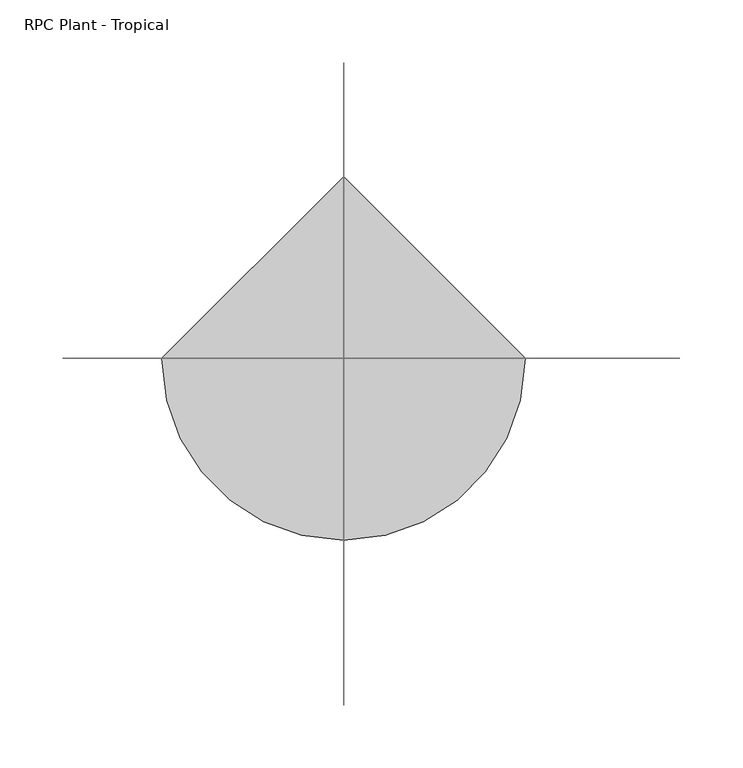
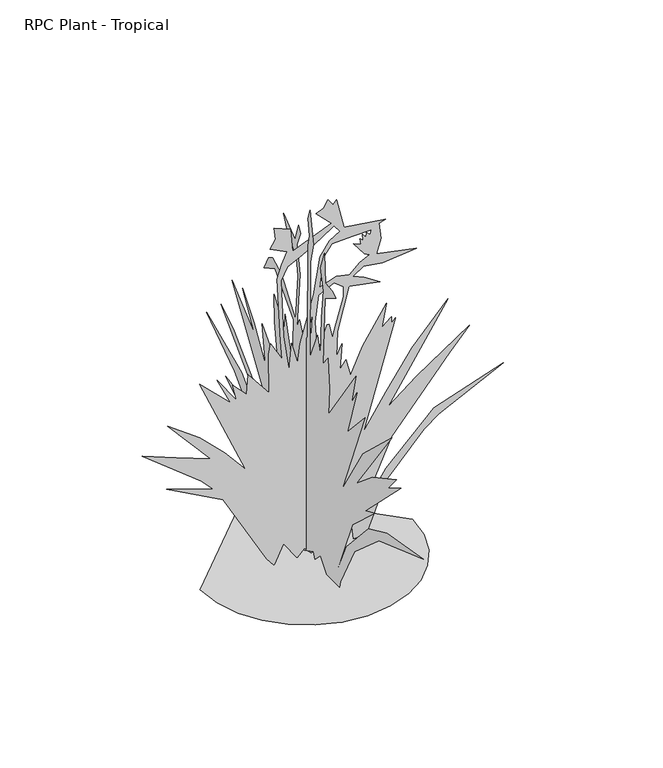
"""IFC4 building model written with IfcOpenShell, lengths in millimetres: geographic element geometry, RPC Plant - Tropical : Crane Lily - 0.9 Meters."""

from ifc_helpers import new_model, si_unit, origin, place, context, project, spatial, triangles, source, transform, mapped, element, save


def rpc_plant_tropical_9b0843ec(model_context):
    return source(origin(), model_context, "Body", "Tessellation", [
        triangles([(-144.3451138, 0.0, 0.0149018), (-140.5242714, -33.1194719, 0.0149018), (-129.6412057, -63.5343578, 0.0149018), (-112.5682834, -90.3732628, 0.0149018), (-90.1765906, -112.7649556, 0.0149018), (-63.3376855, -129.8378779, 0.0149018), (-32.9228019, -140.7209436, 0.0149018), (0.1966774, -144.541786, 0.0149018), (33.3161418, -140.7209436, 0.0149018), (63.73103, -129.8378779, 0.0149018), (90.569935, -112.7649556, 0.0149018), (112.9616278, -90.3732628, 0.0149018), (130.0345501, -63.5343578, 0.0149018), (140.9176158, -33.1194719, 0.0149018), (144.7384582, 1.26e-05, 0.0149018), (0.1966521, 144.541786, 0.0149018), (0.1966682, -77.3024218, 0.0), (0.1966696, -48.893232, 0.0297999), (0.1966539, -32.7725272, 18.1941815), (0.1966541, -19.8943207, 5.3843791), (0.1966545, -16.5890412, 14.2905669), (0.1966723, 12.1036205, 0.0193417), (0.1966561, 19.1870987, 12.2896761), (0.1966563, 27.5768278, 7.6457003), (0.1966579, 39.2622519, 44.1739252), (0.1966739, 50.0946212, 0.0115788), (0.1966582, 59.610324, 22.3329346), (0.1966579, 61.6993544, 8.7469929), (0.196661, 89.9189573, 73.5790844), (0.1966629, 110.0735592, 104.3375812), (0.1966664, 172.1876367, 129.0509346), (0.1966676, 190.416811, 141.0070544), (0.1966663, 164.8709684, 136.9864968), (0.1966646, 134.9149662, 126.8367711), (0.1966672, 168.995971, 161.3279071), (0.1966715, 235.2918517, 205.9571052), (0.1966667, 153.3640037, 169.1556996), (0.1966624, 95.4546568, 111.7235584), (0.1966657, 131.3244151, 168.0904122), (0.1966709, 201.0446144, 237.8404607), (0.196669, 170.9279207, 218.3196137), (0.1966649, 114.903288, 164.2265129), (0.1966621, 81.0282573, 120.7557924), (0.1966647, 102.345915, 176.7834681), (0.1966713, 175.0654225, 288.6196831), (0.1966676, 121.9250978, 243.7460232), (0.1966703, 150.2667908, 292.1627263), (0.1966681, 123.9774616, 258.5932637), (0.1966655, 95.9454972, 214.2237881), (0.1966675, 104.2116078, 268.5446548), (0.1966645, 65.2419979, 227.2126755), (0.1966668, 75.1603378, 289.5905178), (0.196668, 75.8700601, 328.7697215), (0.1966659, 51.9200413, 293.1960753), (0.1966665, 51.0711514, 314.5988568), (0.1966639, 32.5750261, 253.4168718), (0.1966657, 30.734191, 319.3016584), (0.1966691, 74.368394, 365.8919469), (0.1966698, 99.4879953, 352.387793), (0.1966699, 89.6349358, 372.2044613), (0.1966697, 80.4024234, 378.14476), (0.1966684, 59.1537976, 367.4030828), (0.1966656, 26.2723812, 322.8655397), (0.1966673, 20.1612671, 387.726697), (0.1966682, 23.9844644, 412.1336738), (0.19667, 45.7958693, 439.8753671), (0.1966709, 54.6139311, 457.4878821), (0.1966691, 26.867939, 437.3850758), (0.1966695, 19.1870987, 462.2114674), (0.196669, 14.4633455, 452.7642606), (0.1966687, 22.7296014, 432.6892505), (0.1966672, 14.6815394, 394.37531), (0.1966652, 22.7296014, 314.5988568), (0.1966654, 16.8251528, 327.5891613), (0.196664, 5.0161705, 301.6099694), (0.1966641, -2.3205158, 315.5988685), (0.196668, -3.4346, 446.0475921), (0.1966683, -7.420131, 463.3920276), (0.1966691, -3.7982252, 485.4323247), (0.1966694, -7.9737008, 500.0004035), (0.1966677, -16.5683462, 455.6170298), (0.1966672, -9.3729937, 426.9142396), (0.1966631, -7.9737008, 288.6196831), (0.1966636, -25.687104, 331.1322227), (0.1966625, -32.7725272, 306.333591), (0.1966641, -34.8757214, 362.0183461), (0.1966651, -40.2575309, 403.8253146), (0.1966663, -32.7725272, 432.6892505), (0.1966664, -37.496142, 445.6795186), (0.1966666, -42.2197567, 458.668406), (0.1966653, -44.5815629, 417.3378256), (0.1966645, -60.6572714, 416.5683958), (0.196664, -69.1589463, 410.9531136), (0.1966644, -54.8629621, 402.0614325), (0.1966646, -43.5850349, 394.8266996), (0.196662, -38.676977, 298.0669081), (0.1966619, -50.5193455, 312.9572056), (0.1966605, -54.0286562, 270.9057753), (0.1966595, -51.6668454, 233.1168573), (0.1966594, -116.6162013, 327.5891613), (0.1966585, -105.9881436, 282.7155014), (0.1966586, -118.9780121, 305.15165), (0.1966575, -96.5410458, 235.4793584), (0.196657, -137.872471, 280.3530002), (0.1966554, -83.5511774, 144.5501158), (0.1966556, -133.6439955, 225.8543464), (0.1966545, -201.950155, 290.3932849), (0.1966548, -117.7971793, 174.072369), (0.196654, -156.1001194, 205.659885), (0.1966524, -211.9362824, 236.1432532), (0.1966526, -192.1932106, 211.861287), (0.1966518, -222.5293495, 230.8140727), (0.196653, -138.9445531, 147.2792824), (0.1966523, -161.4904153, 157.5404021), (0.1966532, -108.0498092, 108.7139765), (0.1966521, -64.6567184, 4.0233921), (0.1966527, -94.7078547, 68.5974163), (0.1966521, -145.9028948, 125.5884371), (0.1966507, -190.2820991, 146.1626173), (0.1966473, -276.0377295, 161.0834634), (0.1966509, -170.6737392, 123.765238), (0.1966519, -113.3649553, 73.0311709), (0.1966516, -80.0083976, 9.9278824), (64.3538072, 1.26e-05, 0.0221524), (60.5307484, 1.14e-05, 40.687392), (42.8936527, 1.39e-05, 11.4909115), (30.6073887, 1.36e-05, 25.2796025), (7.0794961, 1.58e-05, 0.0066878), (-2.630734, 1.6e-05, 9.9240082), (-12.9838539, 1.69e-05, 0.0020465), (-30.7994668, 1.62e-05, 26.4604375), (-44.2103056, 1.79e-05, 0.0099334), (-53.9297614, 1.8e-05, 13.2020239), (-113.425226, 1.44e-05, 118.4596752), (-190.2201479, 1.52e-05, 161.0834634), (-127.6328708, 1.37e-05, 139.8265033), (-142.8492748, 1.34e-05, 155.9945662), (-223.2854625, 1.31e-05, 220.1279517), (-177.3395933, 1.22e-05, 201.2460011), (-129.9946815, 1.12e-05, 183.519594), (-189.0396059, 9.8e-06, 250.8307652), (-145.3798344, 9.8e-06, 218.8418384), (-111.255918, 1.03e-05, 185.7584835), (-82.7588111, 1.1e-05, 151.6362294), (-145.346497, 5.2e-06, 295.7044069), (-103.3622955, 5.8e-06, 254.8196568), (-121.7284256, 4.3e-06, 293.3432865), (-94.8022893, 5.4e-06, 255.4557554), (-100.4721558, 4.2e-06, 279.17244), (-81.5778422, 4.6e-06, 259.0974299), (-79.2160314, 2.9e-06, 286.2585627), (-50.8744792, 3.7e-06, 250.8307652), (-51.2569822, 5e-07, 305.9030213), (-48.5128092, -5e-07, 320.5044193), (-33.160996, 4e-07, 293.3432865), (-35.0303018, -1e-06, 319.1794275), (-39.919611, -6.2e-06, 409.7211757), (-33.5504412, -7.6e-06, 428.3197861), (-25.9997393, -8.9e-06, 444.8197964), (-49.6936464, -8.6e-06, 456.3073219), (-41.658917, -9.6e-06, 468.2823177), (-43.7891967, -1.05e-05, 484.6490149), (-21.6154298, -1.09e-05, 475.2003911), (-18.9904276, -9.1e-06, 443.3170175), (34.1500299, -1.27e-05, 464.5739685), (12.8939452, -1.31e-05, 485.8295388), (23.3902988, -1.38e-05, 490.2128832), (29.4265537, -1.46e-05, 500.0004035), (36.3922554, -1.44e-05, 490.4226088), (41.0758721, -1.49e-05, 495.8337247), (51.4207394, -1.28e-05, 452.8378753), (107.4731456, -1.48e-05, 445.0545204), (99.0993926, -1.42e-05, 442.1364573), (101.7564797, -1.3e-05, 419.3309089), (95.5567491, -1.15e-05, 399.6239359), (149.8787331, -1.32e-05, 387.8155724), (103.7527241, -1.09e-05, 383.2892135), (77.8802027, -1e-05, 387.2253104), (63.6724171, -8.9e-06, 378.3683656), (78.3093734, -9.1e-06, 371.3377991), (100.2803616, -9.2e-06, 357.1114145), (57.7851902, -7.9e-06, 365.8600084), (42.3276762, -3.7e-06, 306.4877604), (41.2354554, -1.5e-06, 270.9057753), (48.2728211, -2.7e-06, 286.7418908), (45.9589316, -5e-07, 250.8307652), (54.2253284, -1.5e-06, 261.4585503), (60.1297736, -3e-07, 236.6599186), (76.1721492, -3.2e-06, 273.277996), (109.0155115, -7.6e-06, 323.7141435), (102.6421723, -5.4e-06, 290.9821843), (115.6320408, -6.6e-06, 301.6099694), (115.6320408, -6e-06, 292.1627263), (121.5364951, -6.6e-06, 298.0669081), (77.8432591, 4.2e-06, 149.2737283), (108.1356506, 0.0, 196.255717), (143.6801198, -4.6e-06, 247.6057621), (192.3898737, -9.8e-06, 300.4280103), (110.9082921, 1.2e-06, 174.072369), (149.9620674, -2.2e-06, 203.8098889), (221.9135077, -8.3e-06, 252.0113072), (194.6745998, -5.3e-06, 221.8862928), (115.8610693, 3.7e-06, 128.7131555), (72.2017293, 1.14e-05, 32.5566928), (108.179952, 6.6e-06, 86.5777096), (173.5704193, -1e-07, 150.3806738), (267.9677097, -6.1e-06, 182.3390337), (180.7287578, 2e-07, 139.5681706), (159.7704077, 2.1e-06, 124.5494016), (109.1337002, 7.6e-06, 69.4886682), (81.3859026, 1.16e-05, 0.0277465), (62.7397796, -1.23e-05, 436.0503462), (35.0126703, -1.1e-05, 434.5670065), (23.3375222, -9.6e-06, 419.7086838), (17.6175179, -6.9e-06, 378.3683656), (41.0412903, -8.3e-06, 386.2225373), (58.9489409, -8.9e-06, 381.9100099), (72.8167309, -1.03e-05, 395.1808568), (86.1096604, -1.12e-05, 400.8044961), (78.8985362, -1.11e-05, 405.3350335), (64.4850583, -1.17e-05, 424.4808852), (74.5449275, -1.18e-05, 420.1142186), (73.3058952, -1.23e-05, 428.2809076), (77.1285407, -1.22e-05, 424.9225734), (76.6624264, -1.27e-05, 433.8697743), (81.3859026, -1.26e-05, 427.9656289), (81.5640985, -1.3e-05, 434.8003498), (86.8520206, -1.29e-05, 429.508667), (88.9222976, -1.34e-05, 436.1711964), (20.1533529, -1.11e-05, 447.835092), (-5.554625, -9.1e-06, 432.4017317), (-25.2864062, -7.6e-06, 423.0281033), (-34.1634965, -6.2e-06, 405.6836678), (-31.3234946, -1.5e-06, 325.2460994), (-23.713905, 1.2e-06, 273.2682764), (-20.1712638, -1.2e-06, 311.0571762), (-11.9049079, 3e-07, 280.3530002), (-8.4934609, -1.4e-06, 306.1377454), (10.089304, -6e-06, 370.2127951), (18.5769638, -9.5e-06, 422.2461742), (31.7308621, -1.12e-05, 440.393395), (45.9589316, -1.23e-05, 449.2211992), (37.6928119, -1.26e-05, 459.8503833), (16.7150181, -6.2e-06, 367.266972), (12.1178616, -3.8e-06, 330.8433231), (14.2395991, -1.4e-06, 288.7613351), (17.0686291, -1.5e-06, 289.1155104), (28.3846092, -3.9e-06, 320.5877718), (30.8600281, -4e-06, 320.2349954), (35.8107252, -3e-06, 299.7238564), (38.2861442, -3.7e-06, 310.6863776), (50.309352, -6.8e-06, 353.1211058), (50.309352, -7.7e-06, 367.9739056), (37.5787836, -7.7e-06, 377.5211426), (3.9845074, -3.1e-06, 325.5391411), (6.1062452, -2.5e-06, 313.5155291), (7.5207465, -3.3e-06, 326.9530446), (8.5816221, -4.3e-06, 342.8669352)], [[15, 16, 1], [14, 15, 1], [14, 1, 2], [13, 14, 2], [13, 2, 3], [13, 3, 4], [12, 13, 4], [11, 12, 4], [11, 4, 5], [11, 5, 6], [11, 6, 7], [11, 7, 8], [11, 8, 9], [11, 9, 10], [46, 47, 48], [119, 120, 121], [35, 36, 37], [106, 107, 108], [39, 40, 41], [39, 41, 42], [101, 102, 103], [111, 112, 113], [105, 106, 108], [44, 45, 46], [113, 114, 115], [54, 55, 56], [103, 104, 105], [99, 100, 101], [109, 110, 111], [89, 90, 91], [118, 119, 121], [31, 32, 33], [46, 48, 49], [44, 46, 49], [79, 80, 81], [78, 79, 81], [66, 67, 68], [27, 28, 29], [52, 53, 54], [88, 89, 91], [87, 88, 91], [49, 50, 51], [58, 59, 60], [99, 101, 103], [25, 26, 27], [83, 84, 85], [109, 111, 113], [108, 109, 113], [96, 97, 98], [68, 69, 70], [68, 70, 71], [38, 39, 42], [38, 42, 43], [65, 66, 68], [65, 68, 71], [65, 71, 72], [64, 65, 72], [64, 72, 73], [63, 64, 73], [118, 121, 122], [117, 118, 122], [117, 122, 123], [116, 117, 123], [73, 74, 75], [116, 123, 17], [116, 17, 18], [58, 60, 61], [58, 61, 62], [57, 58, 62], [57, 62, 63], [77, 78, 81], [77, 81, 82], [76, 77, 82], [76, 82, 83], [75, 76, 83], [92, 93, 94], [19, 20, 21], [30, 31, 33], [30, 33, 34], [91, 92, 94], [87, 91, 94], [87, 94, 95], [86, 87, 95], [86, 95, 96], [85, 86, 96], [34, 35, 37], [34, 37, 38], [30, 34, 38], [25, 27, 29], [57, 63, 73], [56, 57, 73], [56, 73, 75], [56, 75, 83], [23, 24, 25], [99, 103, 105], [29, 30, 38], [105, 108, 113], [105, 113, 115], [51, 52, 54], [51, 54, 56], [83, 85, 96], [21, 22, 23], [83, 96, 98], [83, 98, 99], [56, 83, 99], [29, 38, 43], [25, 29, 43], [115, 116, 18], [115, 18, 19], [105, 115, 19], [21, 23, 25], [44, 49, 51], [43, 44, 51], [56, 99, 105], [51, 56, 105], [43, 51, 105], [43, 105, 19], [25, 43, 19], [21, 25, 19], [248, 124, 125], [241, 229, 212], [206, 207, 208], [197, 198, 199], [146, 147, 148], [134, 135, 136], [196, 197, 199], [241, 212, 213], [255, 237, 238], [140, 141, 142], [200, 201, 202], [137, 138, 139], [255, 238, 239], [258, 255, 239], [175, 176, 177], [184, 185, 186], [235, 236, 237], [180, 181, 182], [189, 190, 191], [144, 145, 146], [140, 142, 143], [247, 248, 125], [171, 172, 173], [200, 202, 203], [199, 200, 203], [193, 194, 195], [237, 255, 256], [220, 221, 222], [148, 149, 150], [137, 139, 140], [224, 225, 226], [229, 241, 242], [195, 196, 199], [222, 223, 224], [153, 154, 155], [179, 180, 182], [150, 151, 152], [226, 227, 228], [191, 192, 193], [186, 187, 188], [169, 170, 171], [175, 177, 178], [152, 153, 155], [195, 199, 203], [161, 162, 163], [240, 241, 213], [240, 213, 214], [165, 166, 167], [167, 168, 169], [165, 167, 169], [165, 169, 171], [191, 193, 195], [189, 191, 195], [188, 189, 195], [239, 240, 214], [239, 214, 215], [125, 126, 127], [124, 248, 249], [124, 249, 250], [161, 163, 164], [160, 161, 164], [159, 160, 164], [131, 132, 133], [144, 146, 148], [129, 130, 131], [131, 133, 134], [206, 208, 209], [205, 206, 209], [205, 209, 210], [204, 205, 210], [204, 210, 211], [204, 211, 124], [204, 124, 250], [246, 247, 125], [195, 203, 204], [144, 148, 150], [144, 150, 152], [158, 159, 164], [127, 128, 129], [246, 125, 127], [246, 127, 129], [246, 129, 131], [136, 137, 140], [136, 140, 143], [136, 143, 144], [134, 136, 144], [131, 134, 144], [220, 222, 224], [220, 224, 226], [220, 226, 228], [219, 220, 228], [131, 144, 152], [258, 239, 215], [174, 175, 178], [186, 188, 195], [215, 216, 217], [131, 152, 155], [157, 158, 164], [217, 218, 219], [186, 195, 204], [219, 228, 229], [245, 246, 131], [245, 131, 215], [244, 245, 215], [254, 244, 215], [254, 215, 217], [253, 254, 217], [252, 253, 217], [257, 258, 215], [184, 186, 204], [184, 204, 250], [183, 184, 250], [183, 250, 251], [182, 183, 251], [182, 251, 252], [182, 252, 217], [179, 182, 217], [179, 217, 219], [178, 179, 219], [174, 178, 219], [174, 219, 229], [173, 174, 229], [171, 173, 229], [171, 229, 242], [165, 171, 242], [165, 242, 243], [165, 243, 230], [164, 165, 230], [164, 230, 231], [164, 231, 232], [157, 164, 232], [157, 232, 233], [156, 157, 233], [156, 233, 234], [156, 234, 235], [155, 156, 235], [131, 155, 235], [131, 235, 237], [131, 237, 256], [215, 131, 256], [257, 215, 256]], closed=False),
    ])


if __name__ == "__main__":
    model = new_model("IFC4")
    model_context = context("Model", 3, world=origin())
    ifc_project = project(units=[si_unit("LENGTHUNIT", "METRE", prefix="MILLI")], contexts=[model_context])
    site = spatial("IfcSite", under=ifc_project)
    building = spatial("IfcBuilding", under=site)
    placement = place(None, origin())
    rpc_plant_tropical_shape = rpc_plant_tropical_9b0843ec(model_context)
    element("IfcGeographicElement", 1, ObjectType="RPC Plant - Tropical : Crane Lily - 0.9 Meters", at=placement, inside=building, context=model_context, shape_type="MappedRepresentation", body=[
        mapped(rpc_plant_tropical_shape, transform((0.0, 0.0, 0.0), x_axis=(1.0, 0.0, 0.0), y_axis=(0.0, 1.0, 0.0), z_axis=(0.0, 0.0, 1.0))),
    ])
    save(model, "model.ifc")
